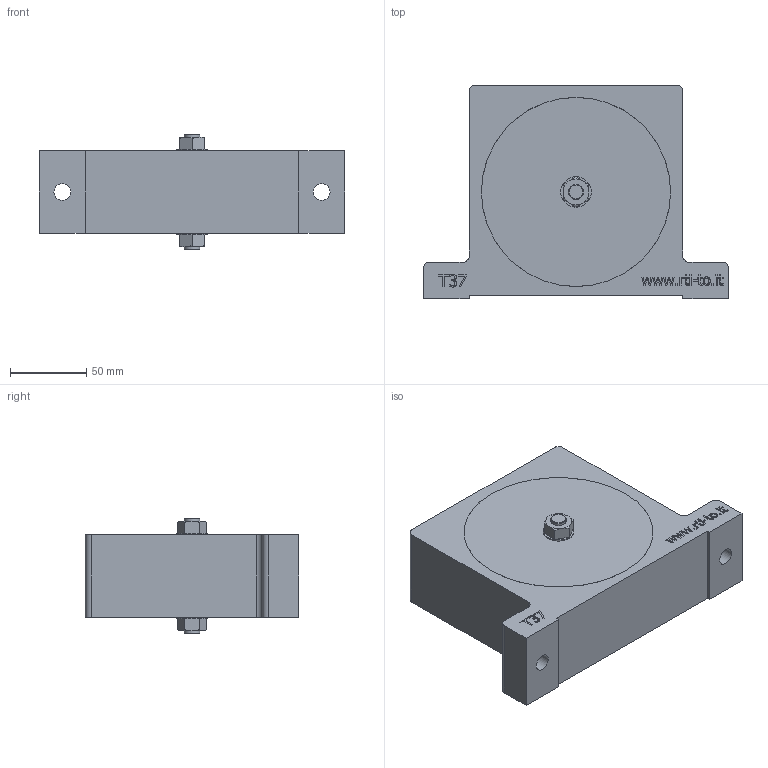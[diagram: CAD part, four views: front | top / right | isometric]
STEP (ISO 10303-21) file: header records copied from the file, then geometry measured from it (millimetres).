
FILE_DESCRIPTION((''),'2;1');
FILE_NAME('D:\UFFICIO TECNICO\PROGETTI PER PROTOTIPI\VIBRATORE - T37\VIBR. T37.stp','2015-09-14T18:03:01',('Piero'),(''),'Autodesk Inventor 2011','Autodesk Inventor 2011','');
FILE_SCHEMA(('CONFIG_CONTROL_DESIGN'));
Length unit declared in the file: millimetre
Products named in the file (1): T37
Bounding box: 200 x 140 x 76 mm (x, y, z)
Volume: 701102 mm3; surface area: 126574.6 mm2
Topology: 1 solids, 1 shells, 277 faces, 719 edges, 475 vertices
Faces by surface type: plane 193, bspline 46, cylinder 21, cone 17
Full cylindrical faces by diameter (mm): 4.5 x1, 10 x2, 11 x2, 14.95 x1, 15 x1, 18.631 x1, 20 x2, 111 x1, 123.9 x2, 124 x2
Entity records: 8567 total; most frequent: CARTESIAN_POINT 2162, ORIENTED_EDGE 1388, DIRECTION 1094, EDGE_CURVE 694, VECTOR 520, LINE 520, VERTEX_POINT 469, EDGE_LOOP 333
